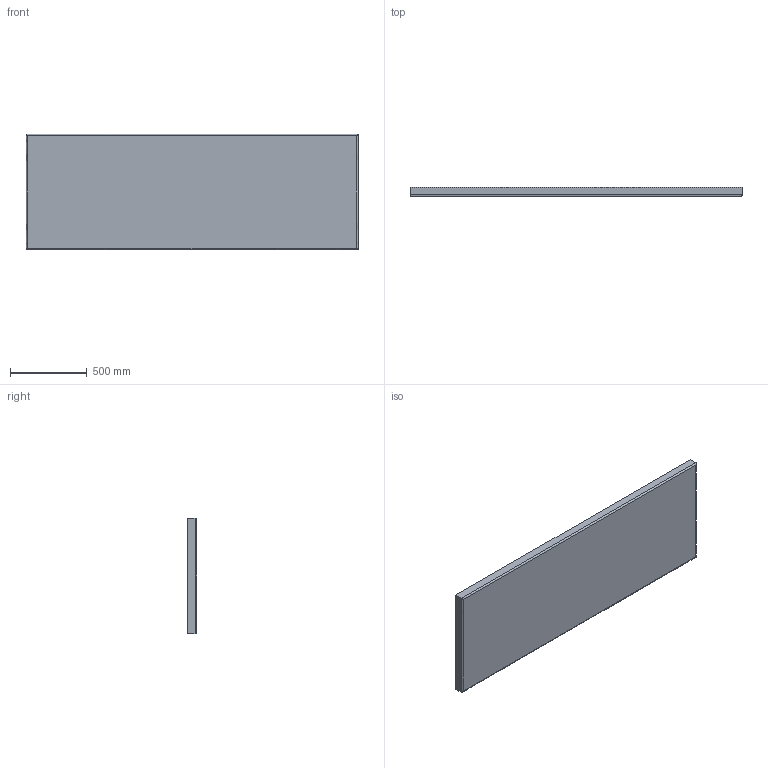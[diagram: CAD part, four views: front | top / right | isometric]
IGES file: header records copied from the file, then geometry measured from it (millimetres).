
Start section: SolidWorks IGES file using NURBS representation for surfaces
Global section: file name: D:\VICCARBE\PRODUCTOS\19-MASS\04-MODELADOS (PLANOS)\SOLIDWORKS\PIEZAS\Bases\01-IGES\VICCARBE_Mass_base_216.IGS; native system: SolidWorks 2009; preprocessor: SolidWorks 2009; author: RUBEN; date: 110908.161924; units: millimetre
Bounding box: 2160 x 60 x 750 mm (x, y, z)
Surface area: 3564163.7 mm2 (no closed solid volume)
Topology: 0 solids, 0 shells, 10 faces, 136 edges, 136 vertices
Faces by surface type: bspline 10
